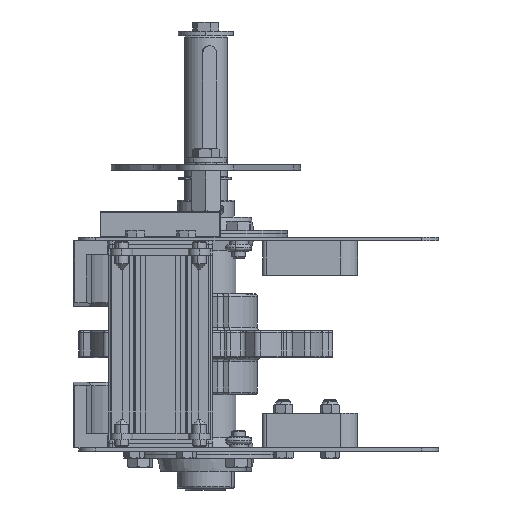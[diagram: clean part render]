
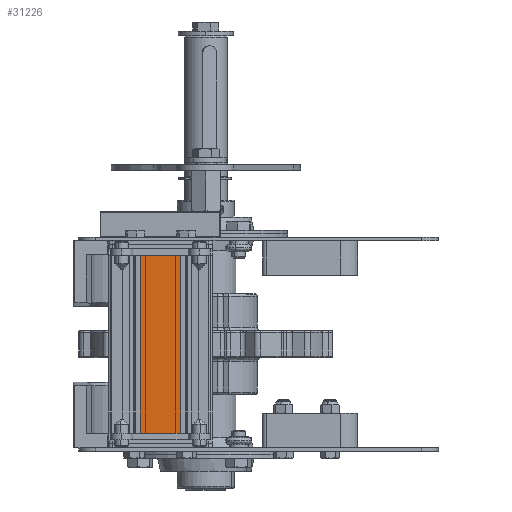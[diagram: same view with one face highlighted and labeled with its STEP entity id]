
A CAD part, left-side view. The second image highlights one B-rep face of the part: STEP entity #31226.
In plain terms, the highlighted planar face has unit normal (-1, 0, 0).
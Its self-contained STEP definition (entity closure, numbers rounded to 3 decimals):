
#1080 = VERTEX_POINT ( 'NONE', #39140 ) ;
#1141 = VERTEX_POINT ( 'NONE', #35837 ) ;
#2490 = LINE ( 'NONE', #28224, #35132 ) ;
#3212 = EDGE_CURVE ( 'NONE', #1141, #1080, #27971, .T. ) ;
#3592 = CARTESIAN_POINT ( 'NONE',  ( -15., 26.85, 103. ) ) ;
#6254 = DIRECTION ( 'NONE',  ( 0., 0., -1. ) ) ;
#8134 = DIRECTION ( 'NONE',  ( 0., -1., 0. ) ) ;
#11585 = CARTESIAN_POINT ( 'NONE',  ( -15., 26.85, 103. ) ) ;
#12630 = CARTESIAN_POINT ( 'NONE',  ( -15., 26.85, 103. ) ) ;
#12636 = EDGE_CURVE ( 'NONE', #19949, #1141, #26615, .T. ) ;
#14802 = DIRECTION ( 'NONE',  ( 0., 0., -1. ) ) ;
#15219 = EDGE_CURVE ( 'NONE', #35063, #1080, #30814, .T. ) ;
#16735 = ORIENTED_EDGE ( 'NONE', *, *, #3212, .F. ) ;
#18218 = VECTOR ( 'NONE', #34718, 1000. ) ;
#18248 = EDGE_LOOP ( 'NONE', ( #37959, #16735, #25684, #27163 ) ) ;
#19396 = DIRECTION ( 'NONE',  ( 0., 0., -1. ) ) ;
#19579 = VECTOR ( 'NONE', #19396, 1000. ) ;
#19949 = VERTEX_POINT ( 'NONE', #3592 ) ;
#21414 = VECTOR ( 'NONE', #8134, 1000. ) ;
#24041 = PLANE ( 'NONE',  #38231 ) ;
#25684 = ORIENTED_EDGE ( 'NONE', *, *, #12636, .F. ) ;
#26615 = LINE ( 'NONE', #12630, #18218 ) ;
#27136 = CARTESIAN_POINT ( 'NONE',  ( -15., 26.85, 0. ) ) ;
#27163 = ORIENTED_EDGE ( 'NONE', *, *, #33620, .T. ) ;
#27971 = LINE ( 'NONE', #38282, #19579 ) ;
#28224 = CARTESIAN_POINT ( 'NONE',  ( -15., 26.85, 103. ) ) ;
#30814 = LINE ( 'NONE', #33423, #21414 ) ;
#31226 = ADVANCED_FACE ( 'NONE', ( #31321 ), #24041, .F. ) ;
#31321 = FACE_OUTER_BOUND ( 'NONE', #18248, .T. ) ;
#33423 = CARTESIAN_POINT ( 'NONE',  ( -15., 26.85, 0. ) ) ;
#33620 = EDGE_CURVE ( 'NONE', #19949, #35063, #2490, .T. ) ;
#33694 = DIRECTION ( 'NONE',  ( 1., 0., 0. ) ) ;
#34718 = DIRECTION ( 'NONE',  ( 0., -1., 0. ) ) ;
#35063 = VERTEX_POINT ( 'NONE', #27136 ) ;
#35132 = VECTOR ( 'NONE', #6254, 1000. ) ;
#35837 = CARTESIAN_POINT ( 'NONE',  ( -15., 3.15, 103. ) ) ;
#37959 = ORIENTED_EDGE ( 'NONE', *, *, #15219, .T. ) ;
#38231 = AXIS2_PLACEMENT_3D ( 'NONE', #11585, #33694, #14802 ) ;
#38282 = CARTESIAN_POINT ( 'NONE',  ( -15., 3.15, 103. ) ) ;
#39140 = CARTESIAN_POINT ( 'NONE',  ( -15., 3.15, 0. ) ) ;
